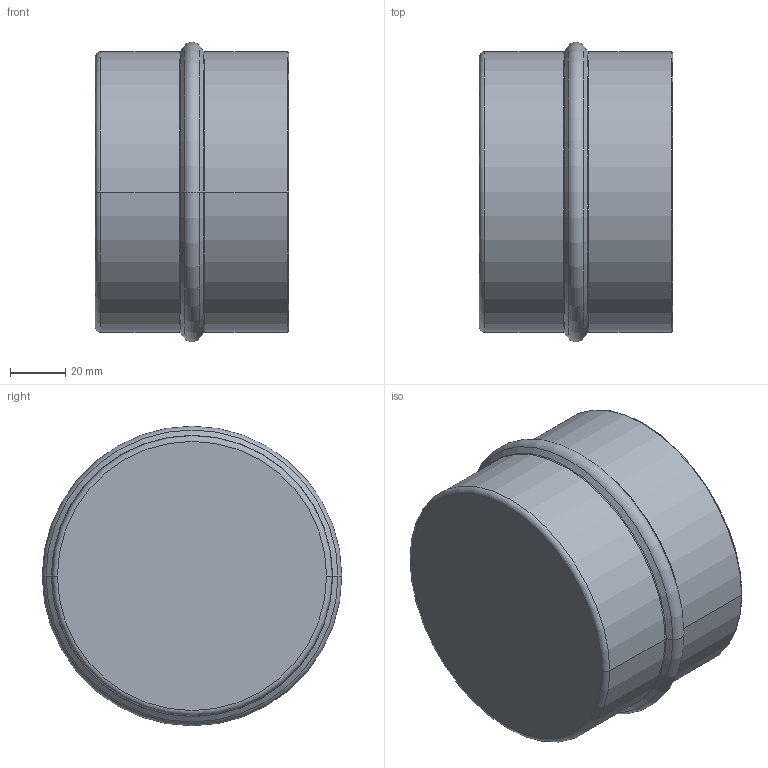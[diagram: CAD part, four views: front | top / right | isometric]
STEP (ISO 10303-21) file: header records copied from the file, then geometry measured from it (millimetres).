
FILE_DESCRIPTION((''),'2;1');
FILE_NAME('2012800600','2017-05-10T',('Administrator'),(''),'PRO/ENGINEER BY PARAMETRIC TECHNOLOGY CORPORATION, 2009360','PRO/ENGINEER BY PARAMETRIC TECHNOLOGY CORPORATION, 2009360','');
FILE_SCHEMA(('AUTOMOTIVE_DESIGN_CC2 { 1 2 10303 214 -1 1 5 2 }'));
Length unit declared in the file: millimetre
Products named in the file (1): 2012800600
Bounding box: 70 x 108.48 x 108.48 mm (x, y, z)
Volume: 245601 mm3; surface area: 52984.9 mm2
Topology: 1 solids, 1 shells, 25 faces, 48 edges, 26 vertices
Faces by surface type: torus 12, cylinder 6, cone 4, plane 3
Entity records: 811 total; most frequent: DIRECTION 136, CARTESIAN_POINT 99, ORIENTED_EDGE 96, AXIS2_PLACEMENT_3D 63, PRESENTATION_STYLE_ASSIGNMENT 49, STYLED_ITEM 49, CURVE_STYLE 48, EDGE_CURVE 48
